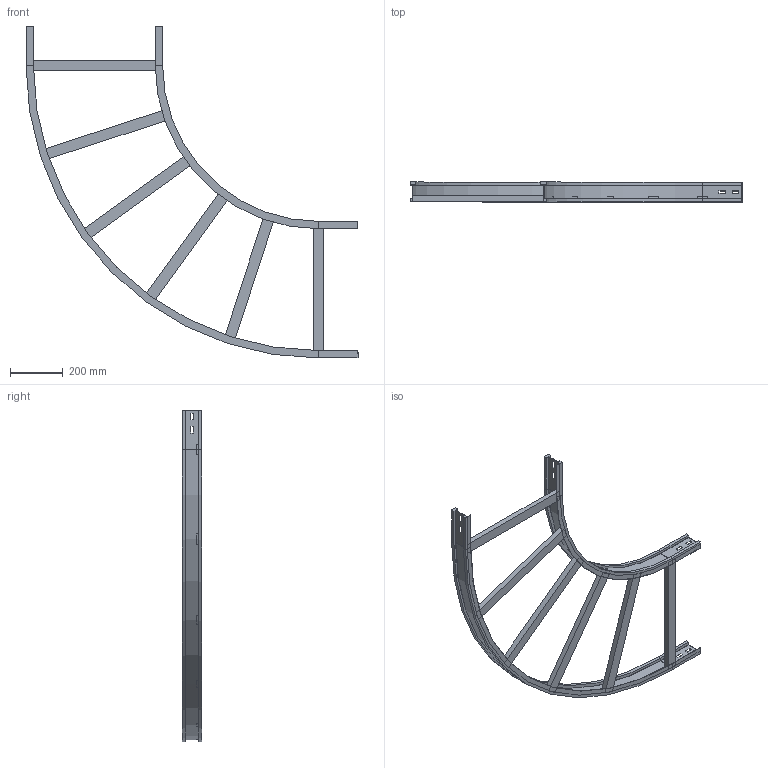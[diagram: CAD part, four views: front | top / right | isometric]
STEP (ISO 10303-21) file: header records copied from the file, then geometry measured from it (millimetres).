
FILE_DESCRIPTION (( 'STEP AP214' ), '1' );
FILE_NAME ('10S6C500.step', '2025-02-21T16:11:55', ( '' ), ( '' ), 'SwSTEP 2.0', 'SolidWorks 2023', '' );
FILE_SCHEMA (( 'AUTOMOTIVE_DESIGN' ));
Length unit declared in the file: millimetre
Products named in the file (4): LONGH.ESTERNO 90°_H75_R600+500; LONGH.INTERNO 90°_H75_R600; 10S6C500; TRAVERSINO_500
Assembly tree (8 placements, depth 2):
  10S6C500
    LONGH.INTERNO 90°_H75_R600
    LONGH.ESTERNO 90°_H75_R600+500
    TRAVERSINO_500  x6
Bounding box: 1259 x 75 x 1259 mm (x, y, z)
Volume: 4024186.8 mm3; surface area: 1177506.4 mm2
Topology: 8 solids, 8 shells, 144 faces, 336 edges, 208 vertices
Faces by surface type: plane 132, cylinder 12
Entity records: 3413 total; most frequent: CARTESIAN_POINT 569, ORIENTED_EDGE 552, DIRECTION 550, EDGE_CURVE 276, LINE 252, VECTOR 252, VERTEX_POINT 168, AXIS2_PLACEMENT_3D 149
